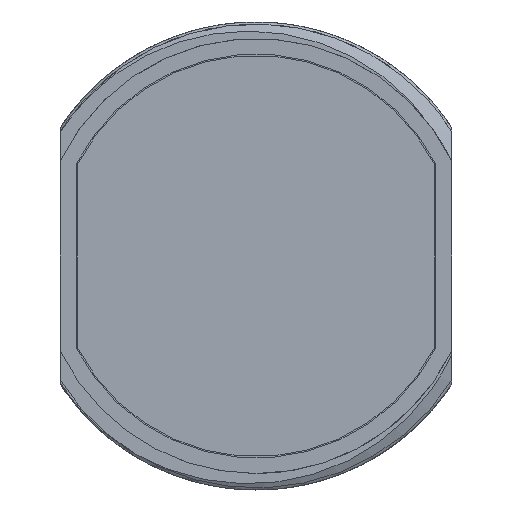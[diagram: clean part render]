
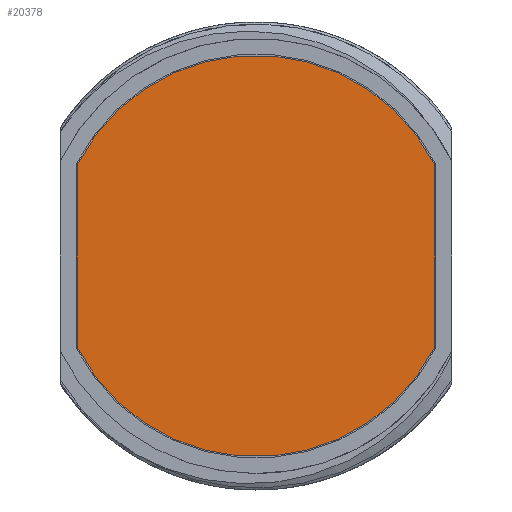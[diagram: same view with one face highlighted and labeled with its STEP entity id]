
A CAD part, front view. The second image highlights one B-rep face of the part: STEP entity #20378.
In plain terms, the highlighted planar face has unit normal (0, -1, 0).
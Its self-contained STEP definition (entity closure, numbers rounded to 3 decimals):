
#2765 = CARTESIAN_POINT ( 'NONE',  ( -64.541, -29.922, 3.637 ) ) ;
#2896 = CARTESIAN_POINT ( 'NONE',  ( -78.341, -29.922, -3.421 ) ) ;
#4232 = FACE_OUTER_BOUND ( 'NONE', #13099, .T. ) ;
#4871 = EDGE_CURVE ( 'NONE', #12797, #7375, #40062, .T. ) ;
#7375 = VERTEX_POINT ( 'NONE', #2896 ) ;
#8117 = LINE ( 'NONE', #27279, #59144 ) ;
#10308 = AXIS2_PLACEMENT_3D ( 'NONE', #46976, #38157, #51689 ) ;
#10700 = CARTESIAN_POINT ( 'NONE',  ( -71.441, -29.922, 0.108 ) ) ;
#11245 = VERTEX_POINT ( 'NONE', #2765 ) ;
#11314 = ORIENTED_EDGE ( 'NONE', *, *, #24879, .T. ) ;
#12797 = VERTEX_POINT ( 'NONE', #45375 ) ;
#13099 = EDGE_LOOP ( 'NONE', ( #34438, #26926, #33560, #11314 ) ) ;
#20222 = EDGE_CURVE ( 'NONE', #7375, #48390, #56439, .T. ) ;
#20378 = ADVANCED_FACE ( 'NONE', ( #4232 ), #32208, .T. ) ;
#23405 = DIRECTION ( 'NONE',  ( 0., -1., 0. ) ) ;
#24019 = CARTESIAN_POINT ( 'NONE',  ( -78.341, -29.922, 7.951 ) ) ;
#24879 = EDGE_CURVE ( 'NONE', #11245, #12797, #27390, .T. ) ;
#26926 = ORIENTED_EDGE ( 'NONE', *, *, #20222, .T. ) ;
#27234 = CARTESIAN_POINT ( 'NONE',  ( -64.541, -29.922, -3.421 ) ) ;
#27279 = CARTESIAN_POINT ( 'NONE',  ( -64.541, -29.922, 7.951 ) ) ;
#27390 = CIRCLE ( 'NONE', #55452, 7.75 ) ;
#30019 = DIRECTION ( 'NONE',  ( 0., 0., -1. ) ) ;
#32208 = PLANE ( 'NONE',  #41383 ) ;
#32963 = VECTOR ( 'NONE', #30019, 1000. ) ;
#33242 = EDGE_CURVE ( 'NONE', #48390, #11245, #8117, .T. ) ;
#33560 = ORIENTED_EDGE ( 'NONE', *, *, #33242, .T. ) ;
#34438 = ORIENTED_EDGE ( 'NONE', *, *, #4871, .T. ) ;
#34575 = DIRECTION ( 'NONE',  ( 0., -1., 0. ) ) ;
#38157 = DIRECTION ( 'NONE',  ( 0., -1., 0. ) ) ;
#40062 = LINE ( 'NONE', #54505, #32963 ) ;
#41383 = AXIS2_PLACEMENT_3D ( 'NONE', #24019, #23405, #61733 ) ;
#41419 = DIRECTION ( 'NONE',  ( 0., 0., 1. ) ) ;
#45375 = CARTESIAN_POINT ( 'NONE',  ( -78.341, -29.922, 3.637 ) ) ;
#46976 = CARTESIAN_POINT ( 'NONE',  ( -71.441, -29.922, 0.108 ) ) ;
#48390 = VERTEX_POINT ( 'NONE', #27234 ) ;
#51689 = DIRECTION ( 'NONE',  ( 1., 0., 0. ) ) ;
#53120 = DIRECTION ( 'NONE',  ( 1., 0., 0. ) ) ;
#54505 = CARTESIAN_POINT ( 'NONE',  ( -78.341, -29.922, 7.951 ) ) ;
#55452 = AXIS2_PLACEMENT_3D ( 'NONE', #10700, #34575, #53120 ) ;
#56439 = CIRCLE ( 'NONE', #10308, 7.75 ) ;
#59144 = VECTOR ( 'NONE', #41419, 1000. ) ;
#61733 = DIRECTION ( 'NONE',  ( 0., 0., -1. ) ) ;
